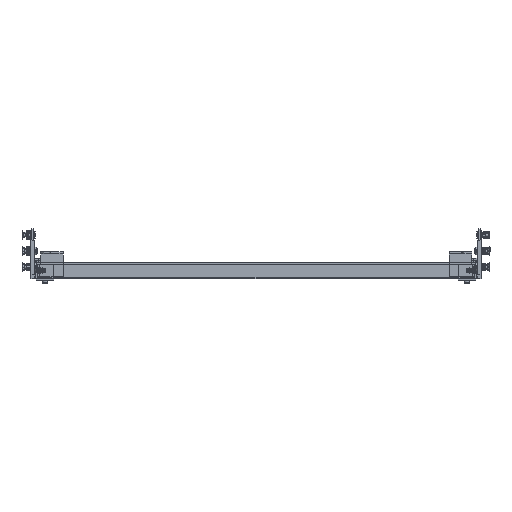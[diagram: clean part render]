
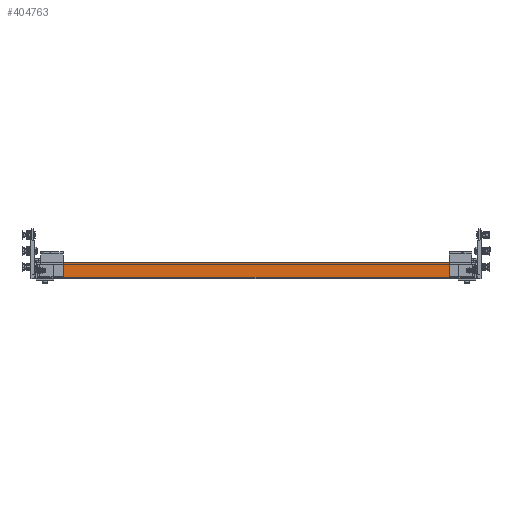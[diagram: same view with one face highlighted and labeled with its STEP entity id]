
A CAD part, front view. The second image highlights one B-rep face of the part: STEP entity #404763.
In plain terms, the highlighted planar face has unit normal (0, -1, 0) as drawn and (-1, 0, 0) by its records, which use the part's own axes.
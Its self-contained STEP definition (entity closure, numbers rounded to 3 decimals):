
#1406 = CARTESIAN_POINT ( 'NONE',  ( -1041.51, -314.5, 21.9 ) ) ;
#11077 = DIRECTION ( 'NONE',  ( 0., 0., 1. ) ) ;
#20656 = DIRECTION ( 'NONE',  ( 1., 0., 0. ) ) ;
#25625 = ORIENTED_EDGE ( 'NONE', *, *, #263432, .T. ) ;
#29193 = EDGE_CURVE ( 'NONE', #414602, #158291, #330543, .T. ) ;
#34868 = VECTOR ( 'NONE', #267039, 1000. ) ;
#35283 = CARTESIAN_POINT ( 'NONE',  ( -1041.51, 314.5, 3.1 ) ) ;
#42734 = EDGE_CURVE ( 'NONE', #385033, #414602, #66352, .T. ) ;
#53366 = LINE ( 'NONE', #182907, #86733 ) ;
#54349 = ORIENTED_EDGE ( 'NONE', *, *, #29193, .T. ) ;
#54635 = CARTESIAN_POINT ( 'NONE',  ( -1041.51, -340.5, 0. ) ) ;
#56711 = PLANE ( 'NONE',  #72985 ) ;
#59183 = EDGE_CURVE ( 'NONE', #385033, #345657, #323094, .T. ) ;
#66352 = LINE ( 'NONE', #195893, #89862 ) ;
#67642 = CARTESIAN_POINT ( 'NONE',  ( -1041.51, 314.5, 21.9 ) ) ;
#70170 = CARTESIAN_POINT ( 'NONE',  ( -1041.51, -314.5, 0. ) ) ;
#72985 = AXIS2_PLACEMENT_3D ( 'NONE', #150196, #20656, #186275 ) ;
#73687 = LINE ( 'NONE', #105515, #34868 ) ;
#82332 = DIRECTION ( 'NONE',  ( 0., -1., 0. ) ) ;
#86733 = VECTOR ( 'NONE', #144763, 1000. ) ;
#89862 = VECTOR ( 'NONE', #325570, 1000. ) ;
#93661 = DIRECTION ( 'NONE',  ( 0., 0., 1. ) ) ;
#105515 = CARTESIAN_POINT ( 'NONE',  ( -1041.51, -314.5, 2.5 ) ) ;
#113561 = ORIENTED_EDGE ( 'NONE', *, *, #216188, .T. ) ;
#130865 = DIRECTION ( 'NONE',  ( 0., 0., -1. ) ) ;
#141498 = VERTEX_POINT ( 'NONE', #252821 ) ;
#142741 = CARTESIAN_POINT ( 'NONE',  ( -1041.51, -314.5, 2.5 ) ) ;
#144647 = CARTESIAN_POINT ( 'NONE',  ( -1041.51, 314.5, 3.1 ) ) ;
#144763 = DIRECTION ( 'NONE',  ( 0., 0., 1. ) ) ;
#150196 = CARTESIAN_POINT ( 'NONE',  ( -1041.51, 314.5, 2.5 ) ) ;
#155669 = VERTEX_POINT ( 'NONE', #1406 ) ;
#158291 = VERTEX_POINT ( 'NONE', #398437 ) ;
#168919 = ORIENTED_EDGE ( 'NONE', *, *, #228008, .F. ) ;
#171789 = DIRECTION ( 'NONE',  ( 0., -1., 0. ) ) ;
#182165 = ORIENTED_EDGE ( 'NONE', *, *, #42734, .T. ) ;
#182907 = CARTESIAN_POINT ( 'NONE',  ( -1041.51, -314.5, 21.9 ) ) ;
#186275 = DIRECTION ( 'NONE',  ( 0., 0., -1. ) ) ;
#189259 = CARTESIAN_POINT ( 'NONE',  ( -1041.51, 314.5, 2.5 ) ) ;
#195893 = CARTESIAN_POINT ( 'NONE',  ( -1041.51, 314.5, 2.5 ) ) ;
#206478 = LINE ( 'NONE', #142741, #404598 ) ;
#216188 = EDGE_CURVE ( 'NONE', #155669, #333183, #53366, .T. ) ;
#218179 = LINE ( 'NONE', #54635, #264416 ) ;
#228008 = EDGE_CURVE ( 'NONE', #141498, #259655, #73687, .T. ) ;
#236718 = EDGE_CURVE ( 'NONE', #345657, #333183, #369404, .T. ) ;
#252821 = CARTESIAN_POINT ( 'NONE',  ( -1041.51, -314.5, 3.1 ) ) ;
#259655 = VERTEX_POINT ( 'NONE', #70170 ) ;
#263432 = EDGE_CURVE ( 'NONE', #141498, #155669, #206478, .T. ) ;
#264416 = VECTOR ( 'NONE', #82332, 1000. ) ;
#267039 = DIRECTION ( 'NONE',  ( 0., 0., -1. ) ) ;
#293576 = EDGE_LOOP ( 'NONE', ( #25625, #113561, #389492, #389957, #182165, #54349, #332630, #168919 ) ) ;
#298509 = VECTOR ( 'NONE', #130865, 1000. ) ;
#323094 = LINE ( 'NONE', #189259, #328834 ) ;
#325570 = DIRECTION ( 'NONE',  ( 0., 0., -1. ) ) ;
#328834 = VECTOR ( 'NONE', #93661, 1000. ) ;
#330543 = LINE ( 'NONE', #35283, #298509 ) ;
#332630 = ORIENTED_EDGE ( 'NONE', *, *, #362102, .T. ) ;
#333183 = VERTEX_POINT ( 'NONE', #390925 ) ;
#345657 = VERTEX_POINT ( 'NONE', #353634 ) ;
#353634 = CARTESIAN_POINT ( 'NONE',  ( -1041.51, 314.5, 25. ) ) ;
#356477 = VECTOR ( 'NONE', #171789, 1000. ) ;
#362102 = EDGE_CURVE ( 'NONE', #158291, #259655, #218179, .T. ) ;
#369404 = LINE ( 'NONE', #399209, #356477 ) ;
#377608 = FACE_OUTER_BOUND ( 'NONE', #293576, .T. ) ;
#385033 = VERTEX_POINT ( 'NONE', #67642 ) ;
#389492 = ORIENTED_EDGE ( 'NONE', *, *, #236718, .F. ) ;
#389957 = ORIENTED_EDGE ( 'NONE', *, *, #59183, .F. ) ;
#390925 = CARTESIAN_POINT ( 'NONE',  ( -1041.51, -314.5, 25. ) ) ;
#398437 = CARTESIAN_POINT ( 'NONE',  ( -1041.51, 314.5, 0. ) ) ;
#399209 = CARTESIAN_POINT ( 'NONE',  ( -1041.51, 314.5, 25. ) ) ;
#404598 = VECTOR ( 'NONE', #11077, 1000. ) ;
#404763 = ADVANCED_FACE ( 'NONE', ( #377608 ), #56711, .F. ) ;
#414602 = VERTEX_POINT ( 'NONE', #144647 ) ;
